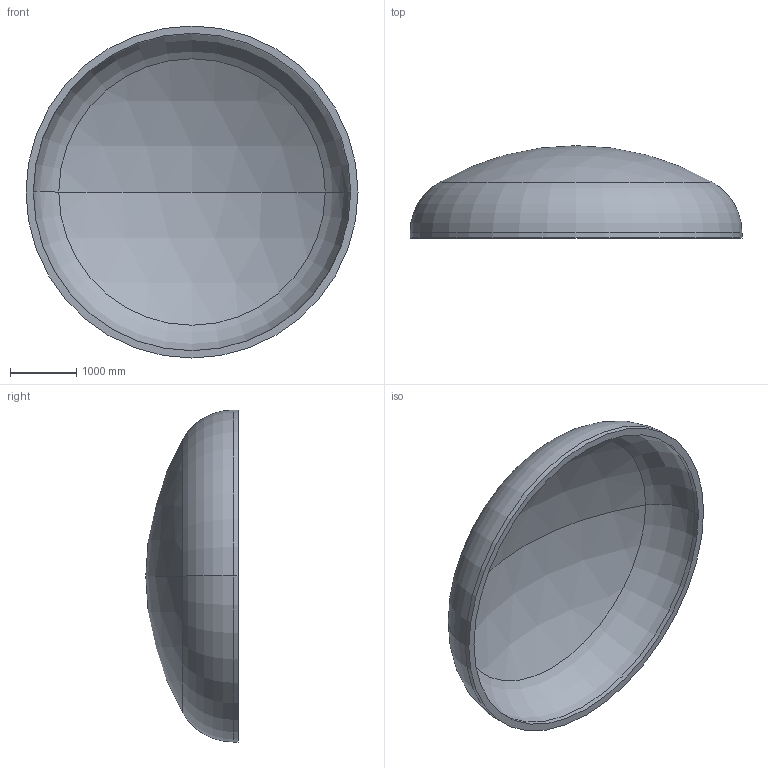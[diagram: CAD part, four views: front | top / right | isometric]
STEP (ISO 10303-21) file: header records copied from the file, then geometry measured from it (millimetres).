
FILE_DESCRIPTION (( 'STEP AP203' ), '1' );
FILE_NAME ('DIN 28013 Korbbogenform_-_Boden DIN 28013 - 5000 x 75 - I - s=110.step', '2016-07-02T00:59:40', ( '' ), ( '' ), 'SwSTEP 2.0', 'SolidWorks 2013', '' );
FILE_SCHEMA (( 'CONFIG_CONTROL_DESIGN' ));
Length unit declared in the file: millimetre
Products named in the file (1): DIN 28013 Korbbogenform_-_Boden DIN 28013 - 5000 x 75 - I - s=110
Bounding box: 5000 x 1390.63 x 5000 mm (x, y, z)
Volume: 3032818565.5 mm3; surface area: 56857340.6 mm2
Topology: 1 solids, 1 shells, 13 faces, 24 edges, 14 vertices
Faces by surface type: torus 4, cylinder 4, sphere 4, plane 1
Entity records: 407 total; most frequent: DIRECTION 72, CARTESIAN_POINT 52, ORIENTED_EDGE 48, AXIS2_PLACEMENT_3D 34, EDGE_CURVE 24, CIRCLE 20, EDGE_LOOP 14, VERTEX_POINT 14
